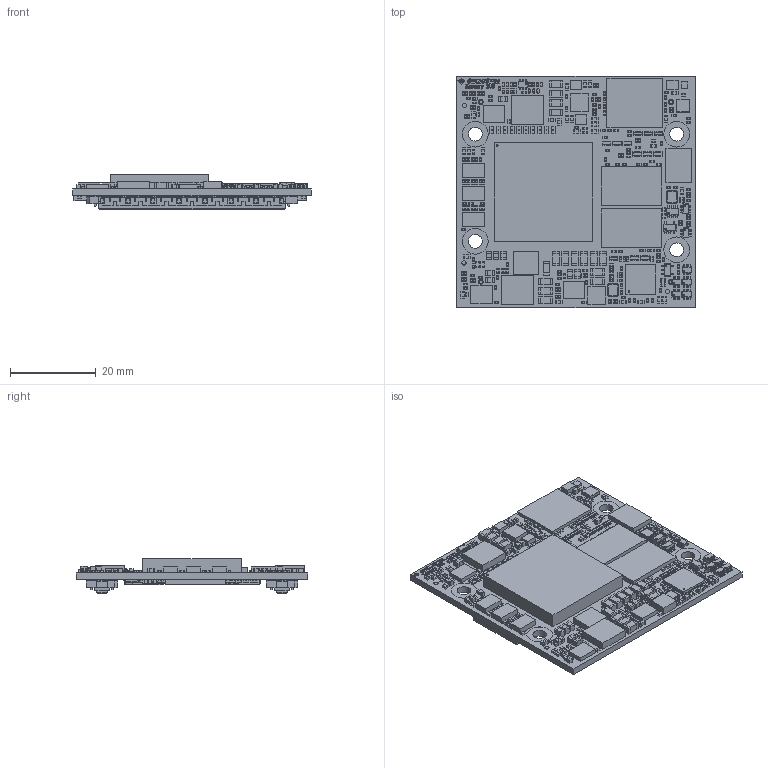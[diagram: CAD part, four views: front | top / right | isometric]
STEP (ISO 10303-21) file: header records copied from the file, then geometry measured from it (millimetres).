
FILE_DESCRIPTION(('Open CASCADE Model'),'2;1');
FILE_NAME('Open CASCADE Shape Model','2020-08-03T11:52:01',('Author'),( 'Open CASCADE'),'Open CASCADE STEP processor 6.8','Open CASCADE 6.8' ,'Unknown');
FILE_SCHEMA(('AUTOMOTIVE_DESIGN { 1 0 10303 214 1 1 1 1 }'));
Length unit declared in the file: millimetre
Products named in the file (726): --
Assembly tree (1272 placements, depth 5):
  --
    --
      --
    --
      --
        --
        --
        --
        --
        --
        --
        --
        --
        --
      --
        --
        --
        --
        --
        --
    --
      --
        --
          --
        --
          --
        --
          --
        --
          --
        --
          --
        --
          --
        --
          --
      --
        --
      --
        --
      --
        --
    --
      --  x4
      --  x4
    --
      --
    --
      --
    --
      --
        --
    --
      --
    --
      --
        --
    --
      --
        --
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Bounding box: 55.6 x 54 x 8.17 mm (x, y, z)
Volume: 9647.1 mm3; surface area: 18322.7 mm2
Topology: 1574 solids, 1574 shells, 19429 faces, 46052 edges, 30103 vertices
Faces by surface type: plane 17591, extrusion 865, cylinder 830, sphere 74, bspline 49, torus 12, cone 8
Full cylindrical faces by diameter (mm): 0.2 x2, 0.4 x1, 1 x6, 1.1 x2, 1.2 x2, 3.2 x8, 6 x4
Entity records: 213142 total; most frequent: CARTESIAN_POINT 37011, ORIENTED_EDGE 28724, DIRECTION 26247, EDGE_CURVE 14362, VECTOR 12671, LINE 11895, VERTEX_POINT 9403, AXIS2_PLACEMENT_3D 6788
